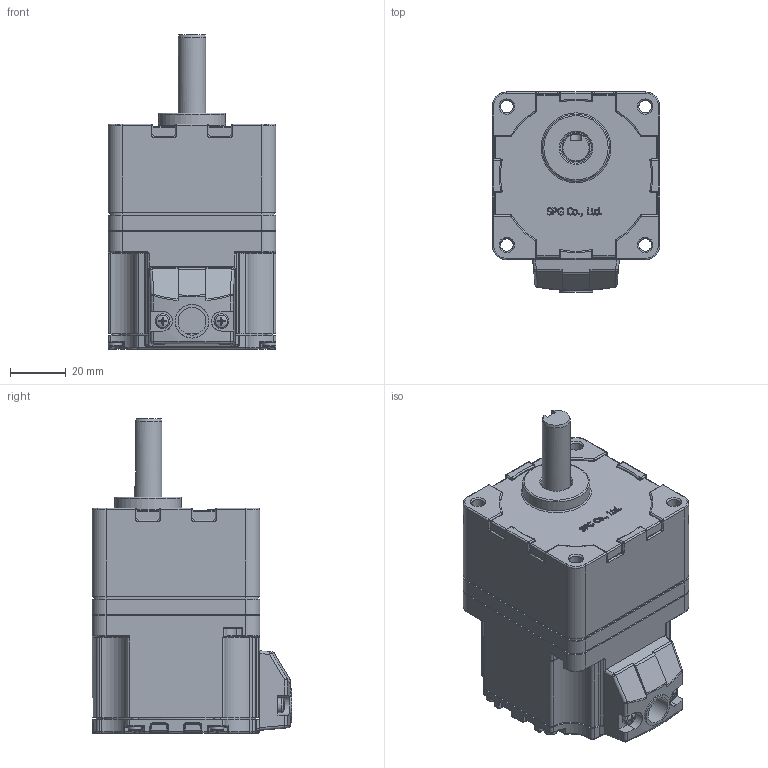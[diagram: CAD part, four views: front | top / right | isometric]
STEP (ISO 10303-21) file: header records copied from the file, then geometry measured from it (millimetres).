
FILE_DESCRIPTION((''),'2;1');
FILE_NAME('C:\Documents and Settings\Administrator\바탕 화면\BLDC 3D FILE\GEARED MOTOR\60-RATIO 30~100.stp','2014-06-19T16:05:35',('kdhkdh'),(''),'Autodesk Inventor 2011','Autodesk Inventor 2011','');
FILE_SCHEMA(('AUTOMOTIVE_DESIGN { 1 0 10303 214 1 1 1 1 }'));
Length unit declared in the file: millimetre
Products named in the file (1): 부품1
Bounding box: 60 x 71.5 x 112.5 mm (x, y, z)
Volume: 270188.9 mm3; surface area: 44972.1 mm2
Topology: 1 solids, 11 shells, 1282 faces, 3182 edges, 1908 vertices
Faces by surface type: cylinder 421, plane 375, bspline 176, torus 161, cone 97, sphere 52
Full cylindrical faces by diameter (mm): 2.256 x4, 2.5 x4, 2.6 x10, 2.729 x2, 2.8 x4, 3 x6, 3.5 x2, 4.5 x8, 4.7 x4, 4.76 x1, 5 x8, 5.3 x2, 5.7 x1, 6 x1, 10 x2, 11 x1, 12 x1, 14 x1, 24 x1, 46 x1, 54 x1, 57.5 x2
Entity records: 40044 total; most frequent: CARTESIAN_POINT 11103, DIRECTION 6030, ORIENTED_EDGE 5876, EDGE_CURVE 2938, AXIS2_PLACEMENT_3D 2405, VERTEX_POINT 1853, EDGE_LOOP 1478, FACE_OUTER_BOUND 1282
